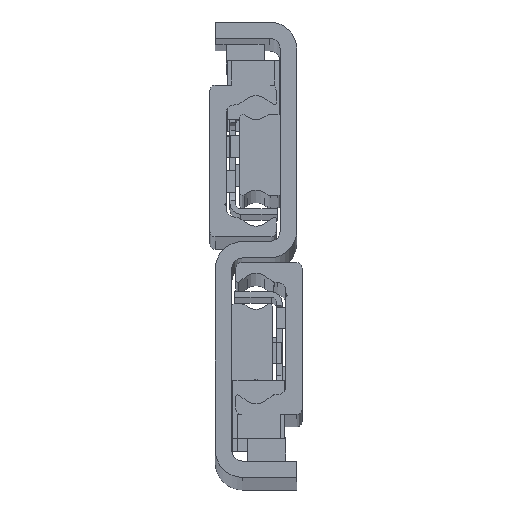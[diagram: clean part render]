
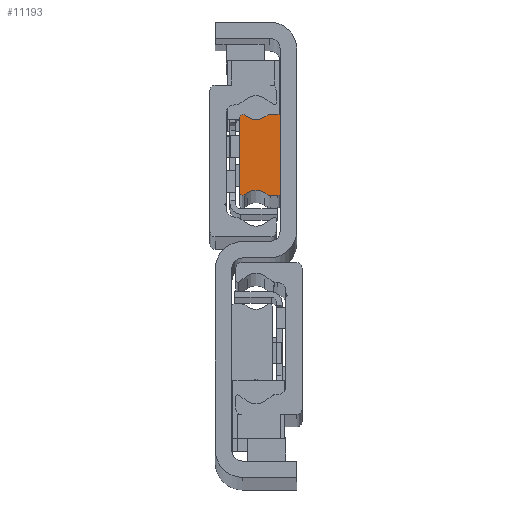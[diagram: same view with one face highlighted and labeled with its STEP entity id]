
A CAD part, top view. The second image highlights one B-rep face of the part: STEP entity #11193.
In plain terms, the highlighted planar face has unit normal (0, 0, 1) as drawn and (0, 0, -1) by its records, which use the part's own axes.
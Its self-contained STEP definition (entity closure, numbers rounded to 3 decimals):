
#221 = AXIS2_PLACEMENT_3D ( 'NONE', #7142, #15241, #8508 ) ;
#242 = CIRCLE ( 'NONE', #463, 0.523 ) ;
#252 = VERTEX_POINT ( 'NONE', #16081 ) ;
#305 = EDGE_LOOP ( 'NONE', ( #761, #2252, #17183, #15821, #11255, #8459, #6410, #1089, #17709, #2326, #375, #15412, #5297, #7775, #1203, #11329 ) ) ;
#375 = ORIENTED_EDGE ( 'NONE', *, *, #5324, .F. ) ;
#463 = AXIS2_PLACEMENT_3D ( 'NONE', #16365, #12405, #9592 ) ;
#489 = CIRCLE ( 'NONE', #221, 0.5 ) ;
#606 = VERTEX_POINT ( 'NONE', #8418 ) ;
#761 = ORIENTED_EDGE ( 'NONE', *, *, #11578, .F. ) ;
#993 = VERTEX_POINT ( 'NONE', #7923 ) ;
#1020 = EDGE_CURVE ( 'NONE', #5573, #14589, #13342, .T. ) ;
#1052 = DIRECTION ( 'NONE',  ( 0., 0., 1. ) ) ;
#1089 = ORIENTED_EDGE ( 'NONE', *, *, #10315, .F. ) ;
#1203 = ORIENTED_EDGE ( 'NONE', *, *, #7221, .F. ) ;
#1340 = EDGE_CURVE ( 'NONE', #2962, #252, #7758, .T. ) ;
#1571 = CARTESIAN_POINT ( 'NONE',  ( 1.873, 7.5, 0. ) ) ;
#1983 = CARTESIAN_POINT ( 'NONE',  ( 6.677, -7.405, 0. ) ) ;
#2049 = VECTOR ( 'NONE', #15940, 1000. ) ;
#2142 = LINE ( 'NONE', #6907, #6810 ) ;
#2234 = CARTESIAN_POINT ( 'NONE',  ( 2.907, -6.997, 0. ) ) ;
#2252 = ORIENTED_EDGE ( 'NONE', *, *, #9788, .F. ) ;
#2326 = ORIENTED_EDGE ( 'NONE', *, *, #8240, .F. ) ;
#2350 = EDGE_CURVE ( 'NONE', #4002, #5724, #16447, .T. ) ;
#2962 = VERTEX_POINT ( 'NONE', #2234 ) ;
#3238 = EDGE_CURVE ( 'NONE', #14589, #4002, #8043, .T. ) ;
#3240 = CARTESIAN_POINT ( 'NONE',  ( 1.873, -7.5, 0. ) ) ;
#3737 = DIRECTION ( 'NONE',  ( -1., 0., 0. ) ) ;
#3872 = CARTESIAN_POINT ( 'NONE',  ( 0.5, -7., 0. ) ) ;
#3913 = EDGE_CURVE ( 'NONE', #252, #4312, #13181, .T. ) ;
#4002 = VERTEX_POINT ( 'NONE', #1571 ) ;
#4312 = VERTEX_POINT ( 'NONE', #1983 ) ;
#4355 = CARTESIAN_POINT ( 'NONE',  ( 6.977, 6.977, 0. ) ) ;
#4435 = AXIS2_PLACEMENT_3D ( 'NONE', #9306, #7755, #9129 ) ;
#4795 = AXIS2_PLACEMENT_3D ( 'NONE', #3872, #11965, #3737 ) ;
#5220 = CARTESIAN_POINT ( 'NONE',  ( 7.5, 6.977, 0. ) ) ;
#5252 = VERTEX_POINT ( 'NONE', #16565 ) ;
#5297 = ORIENTED_EDGE ( 'NONE', *, *, #3238, .F. ) ;
#5324 = EDGE_CURVE ( 'NONE', #5724, #10608, #489, .T. ) ;
#5325 = DIRECTION ( 'NONE',  ( 0., 0., -1. ) ) ;
#5573 = VERTEX_POINT ( 'NONE', #15824 ) ;
#5607 = PLANE ( 'NONE',  #15206 ) ;
#5707 = EDGE_CURVE ( 'NONE', #4312, #5252, #242, .T. ) ;
#5724 = VERTEX_POINT ( 'NONE', #13790 ) ;
#5756 = VECTOR ( 'NONE', #16404, 1000. ) ;
#5782 = DIRECTION ( 'NONE',  ( 0., 0., -1. ) ) ;
#6022 = LINE ( 'NONE', #9152, #13969 ) ;
#6078 = VERTEX_POINT ( 'NONE', #15965 ) ;
#6204 = FACE_OUTER_BOUND ( 'NONE', #305, .T. ) ;
#6299 = DIRECTION ( 'NONE',  ( -1., 0., 0. ) ) ;
#6410 = ORIENTED_EDGE ( 'NONE', *, *, #11422, .F. ) ;
#6619 = CIRCLE ( 'NONE', #13461, 1. ) ;
#6810 = VECTOR ( 'NONE', #10977, 1000. ) ;
#6907 = CARTESIAN_POINT ( 'NONE',  ( 2.907, -6.997, 0. ) ) ;
#7133 = CARTESIAN_POINT ( 'NONE',  ( 1.873, 6.5, 0. ) ) ;
#7142 = CARTESIAN_POINT ( 'NONE',  ( 0.5, 7., 0. ) ) ;
#7177 = CARTESIAN_POINT ( 'NONE',  ( 0., 7., 0. ) ) ;
#7221 = EDGE_CURVE ( 'NONE', #10378, #5573, #17584, .T. ) ;
#7261 = CARTESIAN_POINT ( 'NONE',  ( 2.446, 7.319, 0. ) ) ;
#7349 = LINE ( 'NONE', #5220, #14205 ) ;
#7637 = DIRECTION ( 'NONE',  ( -1., 0., 0. ) ) ;
#7755 = DIRECTION ( 'NONE',  ( 0., 0., -1. ) ) ;
#7758 = CIRCLE ( 'NONE', #4435, 2.778 ) ;
#7775 = ORIENTED_EDGE ( 'NONE', *, *, #1020, .F. ) ;
#7923 = CARTESIAN_POINT ( 'NONE',  ( 6.677, 7.405, 0. ) ) ;
#8017 = DIRECTION ( 'NONE',  ( 1., 0., 0. ) ) ;
#8043 = CIRCLE ( 'NONE', #13739, 1. ) ;
#8119 = CARTESIAN_POINT ( 'NONE',  ( 6.093, 6.997, 0. ) ) ;
#8240 = EDGE_CURVE ( 'NONE', #10608, #606, #10177, .T. ) ;
#8244 = VECTOR ( 'NONE', #11074, 1000. ) ;
#8418 = CARTESIAN_POINT ( 'NONE',  ( 0., -7., 0. ) ) ;
#8459 = ORIENTED_EDGE ( 'NONE', *, *, #16965, .F. ) ;
#8508 = DIRECTION ( 'NONE',  ( -1., 0., 0. ) ) ;
#8728 = CIRCLE ( 'NONE', #4795, 0.5 ) ;
#9129 = DIRECTION ( 'NONE',  ( 1., 0., 0. ) ) ;
#9152 = CARTESIAN_POINT ( 'NONE',  ( 1.873, -7.5, 0. ) ) ;
#9236 = CARTESIAN_POINT ( 'NONE',  ( 6.977, 6.977, 0. ) ) ;
#9306 = CARTESIAN_POINT ( 'NONE',  ( 4.5, -9.272, 0. ) ) ;
#9592 = DIRECTION ( 'NONE',  ( -1., 0., 0. ) ) ;
#9698 = VERTEX_POINT ( 'NONE', #14577 ) ;
#9788 = EDGE_CURVE ( 'NONE', #5252, #9698, #7349, .T. ) ;
#10177 = LINE ( 'NONE', #16050, #2049 ) ;
#10184 = VERTEX_POINT ( 'NONE', #17271 ) ;
#10315 = EDGE_CURVE ( 'NONE', #6078, #11946, #6022, .T. ) ;
#10330 = AXIS2_PLACEMENT_3D ( 'NONE', #17522, #5325, #8017 ) ;
#10378 = VERTEX_POINT ( 'NONE', #13171 ) ;
#10531 = DIRECTION ( 'NONE',  ( 1., 0., 0. ) ) ;
#10608 = VERTEX_POINT ( 'NONE', #7177 ) ;
#10788 = DIRECTION ( 'NONE',  ( 0., 1., 0. ) ) ;
#10977 = DIRECTION ( 'NONE',  ( 0.819, 0.574, 0. ) ) ;
#11074 = DIRECTION ( 'NONE',  ( 0.819, -0.574, 0. ) ) ;
#11193 = ADVANCED_FACE ( 'NONE', ( #6204 ), #5607, .T. ) ;
#11255 = ORIENTED_EDGE ( 'NONE', *, *, #1340, .F. ) ;
#11329 = ORIENTED_EDGE ( 'NONE', *, *, #17458, .F. ) ;
#11422 = EDGE_CURVE ( 'NONE', #11946, #10184, #6619, .T. ) ;
#11578 = EDGE_CURVE ( 'NONE', #9698, #993, #13266, .T. ) ;
#11764 = CARTESIAN_POINT ( 'NONE',  ( 1.873, -6.5, 0. ) ) ;
#11946 = VERTEX_POINT ( 'NONE', #3240 ) ;
#11965 = DIRECTION ( 'NONE',  ( 0., 0., 1. ) ) ;
#12405 = DIRECTION ( 'NONE',  ( 0., 0., 1. ) ) ;
#12660 = EDGE_CURVE ( 'NONE', #606, #6078, #8728, .T. ) ;
#13042 = LINE ( 'NONE', #8119, #5756 ) ;
#13137 = VECTOR ( 'NONE', #17534, 1000. ) ;
#13171 = CARTESIAN_POINT ( 'NONE',  ( 6.093, 6.997, 0. ) ) ;
#13181 = LINE ( 'NONE', #15222, #8244 ) ;
#13266 = CIRCLE ( 'NONE', #16259, 0.523 ) ;
#13342 = LINE ( 'NONE', #13771, #13137 ) ;
#13461 = AXIS2_PLACEMENT_3D ( 'NONE', #11764, #14403, #6299 ) ;
#13736 = DIRECTION ( 'NONE',  ( -1., 0., 0. ) ) ;
#13739 = AXIS2_PLACEMENT_3D ( 'NONE', #7133, #13966, #14018 ) ;
#13771 = CARTESIAN_POINT ( 'NONE',  ( 2.446, 7.319, 0. ) ) ;
#13790 = CARTESIAN_POINT ( 'NONE',  ( 0.5, 7.5, 0. ) ) ;
#13862 = VECTOR ( 'NONE', #7637, 1000. ) ;
#13966 = DIRECTION ( 'NONE',  ( 0., 0., 1. ) ) ;
#13969 = VECTOR ( 'NONE', #10531, 1000. ) ;
#14018 = DIRECTION ( 'NONE',  ( -1., 0., 0. ) ) ;
#14205 = VECTOR ( 'NONE', #10788, 1000. ) ;
#14403 = DIRECTION ( 'NONE',  ( 0., 0., 1. ) ) ;
#14577 = CARTESIAN_POINT ( 'NONE',  ( 7.5, 6.977, 0. ) ) ;
#14589 = VERTEX_POINT ( 'NONE', #7261 ) ;
#15206 = AXIS2_PLACEMENT_3D ( 'NONE', #4355, #5782, #15380 ) ;
#15222 = CARTESIAN_POINT ( 'NONE',  ( 6.677, -7.405, 0. ) ) ;
#15241 = DIRECTION ( 'NONE',  ( 0., 0., 1. ) ) ;
#15380 = DIRECTION ( 'NONE',  ( -1., 0., 0. ) ) ;
#15412 = ORIENTED_EDGE ( 'NONE', *, *, #2350, .F. ) ;
#15821 = ORIENTED_EDGE ( 'NONE', *, *, #3913, .F. ) ;
#15824 = CARTESIAN_POINT ( 'NONE',  ( 2.907, 6.997, 0. ) ) ;
#15940 = DIRECTION ( 'NONE',  ( 0., -1., 0. ) ) ;
#15965 = CARTESIAN_POINT ( 'NONE',  ( 0.5, -7.5, 0. ) ) ;
#16050 = CARTESIAN_POINT ( 'NONE',  ( 0., -7., 0. ) ) ;
#16081 = CARTESIAN_POINT ( 'NONE',  ( 6.093, -6.997, 0. ) ) ;
#16259 = AXIS2_PLACEMENT_3D ( 'NONE', #9236, #1052, #13736 ) ;
#16365 = CARTESIAN_POINT ( 'NONE',  ( 6.977, -6.977, 0. ) ) ;
#16404 = DIRECTION ( 'NONE',  ( -0.819, -0.574, 0. ) ) ;
#16447 = LINE ( 'NONE', #17187, #13862 ) ;
#16565 = CARTESIAN_POINT ( 'NONE',  ( 7.5, -6.977, 0. ) ) ;
#16965 = EDGE_CURVE ( 'NONE', #10184, #2962, #2142, .T. ) ;
#17183 = ORIENTED_EDGE ( 'NONE', *, *, #5707, .F. ) ;
#17187 = CARTESIAN_POINT ( 'NONE',  ( 0.5, 7.5, 0. ) ) ;
#17271 = CARTESIAN_POINT ( 'NONE',  ( 2.446, -7.319, 0. ) ) ;
#17458 = EDGE_CURVE ( 'NONE', #993, #10378, #13042, .T. ) ;
#17522 = CARTESIAN_POINT ( 'NONE',  ( 4.5, 9.272, 0. ) ) ;
#17534 = DIRECTION ( 'NONE',  ( -0.819, 0.574, 0. ) ) ;
#17584 = CIRCLE ( 'NONE', #10330, 2.778 ) ;
#17709 = ORIENTED_EDGE ( 'NONE', *, *, #12660, .F. ) ;
